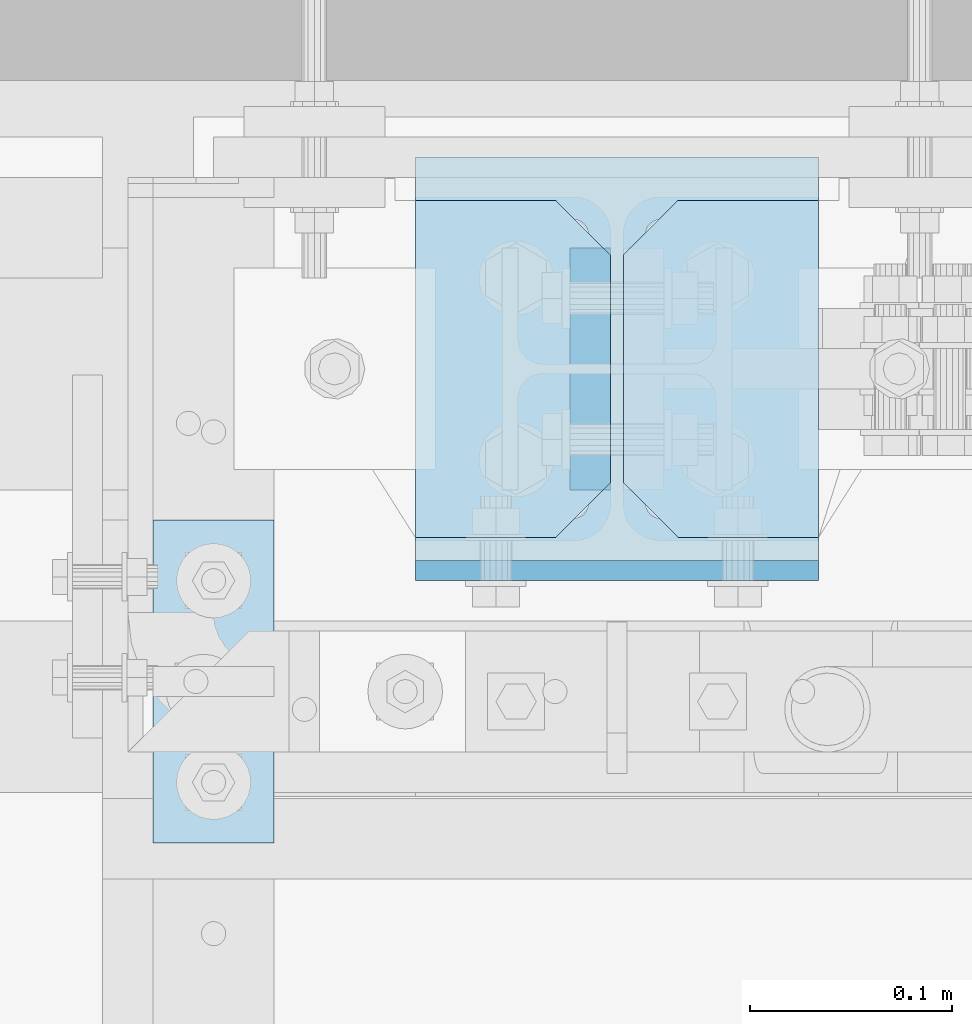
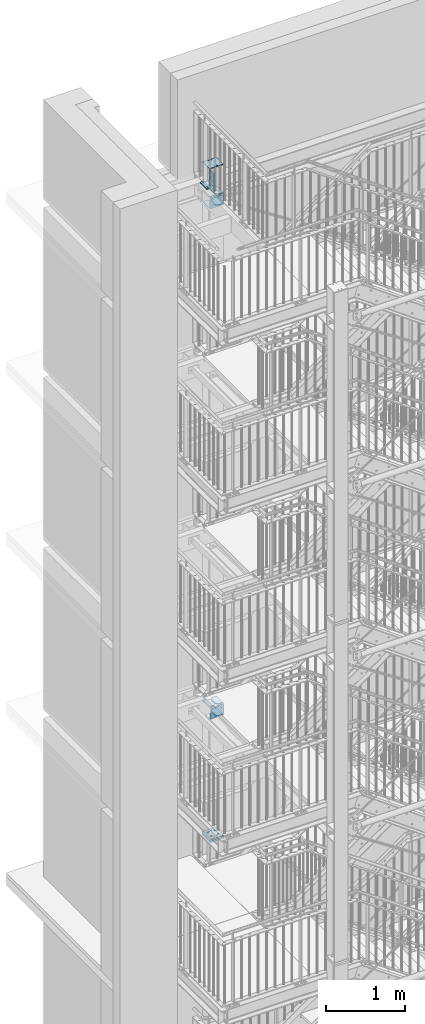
# One storey, part 191 of 831: 14 plates, 62 openings.
"""IFC2X3 building model written with IfcOpenShell, lengths in millimetres."""

from ifc_helpers import new_model, entity, si_unit, converted_unit, point, frame, frame_2d, origin, origin_with_axes, origin_2d_with_axis, place, context, project, spatial, polyline, circle_curve, line_curve, trimmed, segment, composite_curve, circle, outline, extrude, material, layer, layer_set, element, save


model = new_model("IFC2X3")

# Units and contexts
model_context = context("Model", 3, precision=1e-09, world=origin_with_axes())
ifc_project = project(units=[si_unit("LENGTHUNIT", "METRE", prefix="MILLI"), si_unit("AREAUNIT", "SQUARE_METRE"), si_unit("VOLUMEUNIT", "CUBIC_METRE"), converted_unit("PLANEANGLEUNIT", "DEGREE", entity("IfcPlaneAngleMeasure", 0.01745329), si_unit("PLANEANGLEUNIT", "RADIAN"), dimensions=[0, 0, 0, 0, 0, 0, 0])], contexts=[model_context])

# Site, building, storey
site_placement = place(None, origin_with_axes())
site = spatial("IfcSite", under=ifc_project, at=site_placement, Name="Site", CompositionType="ELEMENT")
building_placement = place(site_placement, origin_with_axes())
building = spatial("IfcBuilding", under=site, at=building_placement, Name="Struktur 1", CompositionType="ELEMENT")
storey_placement = place(building_placement, origin_with_axes())
storey = spatial("IfcBuildingStorey", under=building, at=storey_placement, Name="Default Storey", CompositionType="ELEMENT", Elevation=0.0)

# Plate, openings
ifc_material = material(Name="S235JR")
ifc_layer_1 = layer(ifc_material, 25.0)
ifc_layer_set_1 = layer_set([ifc_layer_1], Name="S235JR")
plate_1_placement = place(None, frame((4856.713402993, 7516.736971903, 7650.0), z_axis=(0.0, 0.0, -1.0), x_axis=(0.0, 1.0, 0.0)))
plate_1 = element("IfcPlate", 1, at=plate_1_placement, inside=storey, material=ifc_layer_set_1, Name="Endplate#1", ObjectType="Endplate#1", context=model_context, shape_type="SweptSolid", body=[
    extrude(outline(polyline([(-105.0, -100.0), (105.0, -100.0), (105.0, 100.0), (-105.0, 100.0), (-105.0, -100.0)])), origin_with_axes(), (0.0, 0.0, 1.0), 25.0),
])
opening_1_placement = place(plate_1_placement, frame((67.0, 21.25, -0.5), z_axis=(0.0, 0.0, 1.0), x_axis=(1.0, 0.0, 0.0)))
element("IfcOpeningElement", 2, at=opening_1_placement, cuts=plate_1, ObjectType="Opening", context=model_context, shape_type="SweptSolid", body=[
    extrude(circle(Radius=7.001, at=origin_2d_with_axis()), origin(), (0.0, 0.0, 1.0), 26.0),
])
opening_2_placement = place(plate_1_placement, frame((-67.0, 21.25, -0.5), z_axis=(0.0, 0.0, 1.0), x_axis=(1.0, 0.0, 0.0)))
element("IfcOpeningElement", 3, at=opening_2_placement, cuts=plate_1, ObjectType="Opening", context=model_context, shape_type="SweptSolid", body=[
    extrude(circle(Radius=7.001, at=origin_2d_with_axis()), origin(), (0.0, 0.0, 1.0), 26.0),
])
opening_3_placement = place(plate_1_placement, frame((-67.0, -21.25, -0.5), z_axis=(0.0, 0.0, 1.0), x_axis=(1.0, 0.0, 0.0)))
element("IfcOpeningElement", 4, at=opening_3_placement, cuts=plate_1, ObjectType="Opening", context=model_context, shape_type="SweptSolid", body=[
    extrude(circle(Radius=7.001, at=origin_2d_with_axis()), origin(), (0.0, 0.0, 1.0), 26.0),
])
opening_4_placement = place(plate_1_placement, frame((67.0, -21.25, -0.5), z_axis=(0.0, 0.0, 1.0), x_axis=(1.0, 0.0, 0.0)))
element("IfcOpeningElement", 5, at=opening_4_placement, cuts=plate_1, ObjectType="Opening", context=model_context, shape_type="SweptSolid", body=[
    extrude(circle(Radius=7.001, at=origin_2d_with_axis()), origin(), (0.0, 0.0, 1.0), 26.0),
])
opening_5_placement = place(plate_1_placement, frame((45.0, -38.999, 25.5), z_axis=(0.0, 0.0, 1.0), x_axis=(1.0, 0.0, 0.0)))
element("IfcOpeningElement", 6, at=opening_5_placement, cuts=plate_1, ObjectType="Opening", context=model_context, shape_type="SweptSolid", body=[
    extrude(circle(Radius=11.001, at=frame_2d((0.0, -11.001), x_axis=(1.0, 0.0))), origin(), (0.0, 0.0, -1.0), 26.0),
])
opening_6_placement = place(plate_1_placement, frame((-45.0, -38.999, 25.5), z_axis=(0.0, 0.0, 1.0), x_axis=(1.0, 0.0, 0.0)))
element("IfcOpeningElement", 7, at=opening_6_placement, cuts=plate_1, ObjectType="Opening", context=model_context, shape_type="SweptSolid", body=[
    extrude(circle(Radius=11.001, at=frame_2d((0.0, -11.001), x_axis=(1.0, 0.0))), origin(), (0.0, 0.0, -1.0), 26.0),
])
opening_7_placement = place(plate_1_placement, frame((45.0, 61.001, 25.5), z_axis=(0.0, 0.0, 1.0), x_axis=(1.0, 0.0, 0.0)))
element("IfcOpeningElement", 8, at=opening_7_placement, cuts=plate_1, ObjectType="Opening", context=model_context, shape_type="SweptSolid", body=[
    extrude(circle(Radius=11.001, at=frame_2d((0.0, -11.001), x_axis=(1.0, 0.0))), origin(), (0.0, 0.0, -1.0), 26.0),
])
opening_8_placement = place(plate_1_placement, frame((-45.0, 61.001, 25.5), z_axis=(0.0, 0.0, 1.0), x_axis=(1.0, 0.0, 0.0)))
element("IfcOpeningElement", 9, at=opening_8_placement, cuts=plate_1, ObjectType="Opening", context=model_context, shape_type="SweptSolid", body=[
    extrude(circle(Radius=11.001, at=frame_2d((0.0, -11.001), x_axis=(1.0, 0.0))), origin(), (0.0, 0.0, -1.0), 26.0),
])

plate_2_placement = place(None, frame((4856.713402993, 7516.736971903, 7675.0), z_axis=(0.0, 0.0, -1.0), x_axis=(0.0, 1.0, 0.0)))
plate_2 = element("IfcPlate", 10, at=plate_2_placement, inside=storey, material=ifc_layer_set_1, Name="Endplate#2", ObjectType="Endplate#2", context=model_context, shape_type="SweptSolid", body=[
    extrude(outline(polyline([(-105.0, -100.0), (105.0, -100.0), (105.0, 100.0), (-105.0, 100.0), (-105.0, -100.0)])), origin_with_axes(), (0.0, 0.0, 1.0), 25.0),
])
opening_9_placement = place(plate_2_placement, frame((67.0, 21.25, 25.5), z_axis=(0.0, 0.0, -1.0), x_axis=(-1.0, 0.0, 0.0)))
element("IfcOpeningElement", 11, at=opening_9_placement, cuts=plate_2, ObjectType="Opening", context=model_context, shape_type="SweptSolid", body=[
    extrude(circle(Radius=7.001, at=origin_2d_with_axis()), origin(), (0.0, 0.0, 1.0), 26.0),
])
opening_10_placement = place(plate_2_placement, frame((-67.0, 21.25, 25.5), z_axis=(0.0, 0.0, -1.0), x_axis=(-1.0, 0.0, 0.0)))
element("IfcOpeningElement", 12, at=opening_10_placement, cuts=plate_2, ObjectType="Opening", context=model_context, shape_type="SweptSolid", body=[
    extrude(circle(Radius=7.001, at=origin_2d_with_axis()), origin(), (0.0, 0.0, 1.0), 26.0),
])
opening_11_placement = place(plate_2_placement, frame((-67.0, -21.25, 25.5), z_axis=(0.0, 0.0, -1.0), x_axis=(-1.0, 0.0, 0.0)))
element("IfcOpeningElement", 13, at=opening_11_placement, cuts=plate_2, ObjectType="Opening", context=model_context, shape_type="SweptSolid", body=[
    extrude(circle(Radius=7.001, at=origin_2d_with_axis()), origin(), (0.0, 0.0, 1.0), 26.0),
])
opening_12_placement = place(plate_2_placement, frame((67.0, -21.25, 25.5), z_axis=(0.0, 0.0, -1.0), x_axis=(-1.0, 0.0, 0.0)))
element("IfcOpeningElement", 14, at=opening_12_placement, cuts=plate_2, ObjectType="Opening", context=model_context, shape_type="SweptSolid", body=[
    extrude(circle(Radius=7.001, at=origin_2d_with_axis()), origin(), (0.0, 0.0, 1.0), 26.0),
])
opening_13_placement = place(plate_2_placement, frame((45.0, 61.001, 25.5), z_axis=(0.0, 0.0, 1.0), x_axis=(1.0, 0.0, 0.0)))
element("IfcOpeningElement", 15, at=opening_13_placement, cuts=plate_2, ObjectType="Opening", context=model_context, shape_type="SweptSolid", body=[
    extrude(circle(Radius=11.001, at=frame_2d((0.0, -11.001), x_axis=(1.0, 0.0))), origin(), (0.0, 0.0, -1.0), 26.0),
])
opening_14_placement = place(plate_2_placement, frame((-45.0, 61.001, 25.5), z_axis=(0.0, 0.0, 1.0), x_axis=(1.0, 0.0, 0.0)))
element("IfcOpeningElement", 16, at=opening_14_placement, cuts=plate_2, ObjectType="Opening", context=model_context, shape_type="SweptSolid", body=[
    extrude(circle(Radius=11.001, at=frame_2d((0.0, -11.001), x_axis=(1.0, 0.0))), origin(), (0.0, 0.0, -1.0), 26.0),
])
opening_15_placement = place(plate_2_placement, frame((45.0, -38.999, 25.5), z_axis=(0.0, 0.0, 1.0), x_axis=(1.0, 0.0, 0.0)))
element("IfcOpeningElement", 17, at=opening_15_placement, cuts=plate_2, ObjectType="Opening", context=model_context, shape_type="SweptSolid", body=[
    extrude(circle(Radius=11.001, at=frame_2d((0.0, -11.001), x_axis=(1.0, 0.0))), origin(), (0.0, 0.0, -1.0), 26.0),
])
opening_16_placement = place(plate_2_placement, frame((-45.0, -38.999, 25.5), z_axis=(0.0, 0.0, 1.0), x_axis=(1.0, 0.0, 0.0)))
element("IfcOpeningElement", 18, at=opening_16_placement, cuts=plate_2, ObjectType="Opening", context=model_context, shape_type="SweptSolid", body=[
    extrude(circle(Radius=11.001, at=frame_2d((0.0, -11.001), x_axis=(1.0, 0.0))), origin(), (0.0, 0.0, -1.0), 26.0),
])

ifc_layer_2 = layer(ifc_material, 10.0)
ifc_layer_set_2 = layer_set([ifc_layer_2], Name="S235JR")
plate_3_placement = place(None, frame((4856.713402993, 7411.736971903, 17498.999999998), z_axis=(0.0, 1.0, 0.0), x_axis=(0.0, 0.0, -1.0)))
plate_3 = element("IfcPlate", 19, at=plate_3_placement, inside=storey, material=ifc_layer_set_2, Name="Endplate", ObjectType="Endplate", context=model_context, shape_type="SweptSolid", body=[
    extrude(outline(polyline([(-90.0, -100.0), (90.0, -100.0), (90.0, 100.0), (-90.0, 100.0), (-90.0, -100.0)])), origin_with_axes(), (0.0, 0.0, 1.0), 10.0),
])
opening_17_placement = place(plate_3_placement, frame((-67.0, 21.25, 10.5), z_axis=(0.0, 0.0, -1.0), x_axis=(-1.0, 0.0, 0.0)))
element("IfcOpeningElement", 20, at=opening_17_placement, cuts=plate_3, ObjectType="Opening", context=model_context, shape_type="SweptSolid", body=[
    extrude(circle(Radius=6.001, at=origin_2d_with_axis()), origin(), (0.0, 0.0, 1.0), 11.0),
])
opening_18_placement = place(plate_3_placement, frame((67.0, 21.25, 10.5), z_axis=(0.0, 0.0, -1.0), x_axis=(-1.0, 0.0, 0.0)))
element("IfcOpeningElement", 21, at=opening_18_placement, cuts=plate_3, ObjectType="Opening", context=model_context, shape_type="SweptSolid", body=[
    extrude(circle(Radius=6.001, at=origin_2d_with_axis()), origin(), (0.0, 0.0, 1.0), 11.0),
])
opening_19_placement = place(plate_3_placement, frame((67.0, -21.25, 10.5), z_axis=(0.0, 0.0, -1.0), x_axis=(-1.0, 0.0, 0.0)))
element("IfcOpeningElement", 22, at=opening_19_placement, cuts=plate_3, ObjectType="Opening", context=model_context, shape_type="SweptSolid", body=[
    extrude(circle(Radius=6.001, at=origin_2d_with_axis()), origin(), (0.0, 0.0, 1.0), 11.0),
])
opening_20_placement = place(plate_3_placement, frame((-67.0, -21.25, 10.5), z_axis=(0.0, 0.0, -1.0), x_axis=(-1.0, 0.0, 0.0)))
element("IfcOpeningElement", 23, at=opening_20_placement, cuts=plate_3, ObjectType="Opening", context=model_context, shape_type="SweptSolid", body=[
    extrude(circle(Radius=6.001, at=origin_2d_with_axis()), origin(), (0.0, 0.0, 1.0), 11.0),
])
opening_21_placement = place(plate_3_placement, frame((-45.0, -60.0, 10.5), z_axis=(0.0, 0.0, -1.0), x_axis=(0.0, -1.0, 0.0)))
element("IfcOpeningElement", 24, at=opening_21_placement, cuts=plate_3, ObjectType="Opening", context=model_context, shape_type="SweptSolid", body=[
    extrude(circle(Radius=9.001, at=origin_2d_with_axis()), origin(), (0.0, 0.0, 1.0), 11.0),
])
opening_22_placement = place(plate_3_placement, frame((45.0, 60.0, 10.5), z_axis=(0.0, 0.0, -1.0), x_axis=(0.0, 1.0, 0.0)))
element("IfcOpeningElement", 25, at=opening_22_placement, cuts=plate_3, ObjectType="Opening", context=model_context, shape_type="SweptSolid", body=[
    extrude(circle(Radius=9.001, at=origin_2d_with_axis()), origin(), (0.0, 0.0, 1.0), 11.0),
])
opening_23_placement = place(plate_3_placement, frame((45.0, -60.0, 10.5), z_axis=(0.0, 0.0, -1.0), x_axis=(0.0, -1.0, 0.0)))
element("IfcOpeningElement", 26, at=opening_23_placement, cuts=plate_3, ObjectType="Opening", context=model_context, shape_type="SweptSolid", body=[
    extrude(circle(Radius=9.001, at=origin_2d_with_axis()), origin(), (0.0, 0.0, 1.0), 11.0),
])
opening_24_placement = place(plate_3_placement, frame((-45.0, 60.0, 10.5), z_axis=(0.0, 0.0, -1.0), x_axis=(0.0, 1.0, 0.0)))
element("IfcOpeningElement", 27, at=opening_24_placement, cuts=plate_3, ObjectType="Opening", context=model_context, shape_type="SweptSolid", body=[
    extrude(circle(Radius=9.001, at=origin_2d_with_axis()), origin(), (0.0, 0.0, 1.0), 11.0),
])

plate_4_placement = place(None, frame((4859.963402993, 7433.236971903, 17573.999999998), z_axis=(0.0, 0.0, 1.0), x_axis=(1.0, 0.0, 0.0)))
plate_4 = element("IfcPlate", 28, at=plate_4_placement, inside=storey, material=ifc_layer_set_2, Name="Stiffener#1", ObjectType="Stiffener#1", context=model_context, shape_type="SweptSolid", body=[
    extrude(outline(polyline([(0.0, 0.0), (96.75, 0.0), (96.75, 167.0), (0.0, 167.0), (0.0, 0.0)])), origin_with_axes(), (0.0, 0.0, 1.0), 10.0),
])
opening_25_placement = place(plate_4_placement, frame((0.0, 0.0, -0.01), z_axis=(0.0, 0.0, 1.0), x_axis=(1.0, 0.0, 0.0)))
element("IfcOpeningElement", 29, at=opening_25_placement, cuts=plate_4, ObjectType="Opening", context=model_context, shape_type="SweptSolid", body=[
    extrude(outline(polyline([(0.0, 167.0), (0.0, 140.0), (27.0, 167.0), (0.0, 167.0)])), origin(), (0.0, 0.0, 1.0), 10.02),
])
opening_26_placement = place(plate_4_placement, frame((0.0, 0.0, -0.01), z_axis=(0.0, 0.0, 1.0), x_axis=(1.0, 0.0, 0.0)))
element("IfcOpeningElement", 30, at=opening_26_placement, cuts=plate_4, ObjectType="Opening", context=model_context, shape_type="SweptSolid", body=[
    extrude(outline(polyline([(0.0, 0.0), (27.0, 0.0), (0.0, 27.0), (0.0, 0.0)])), origin(), (0.0, 0.0, 1.0), 10.02),
])

plate_5_placement = place(None, frame((4756.713402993, 7433.236971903, 17573.999999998), z_axis=(0.0, 0.0, 1.0), x_axis=(1.0, 0.0, 0.0)))
plate_5 = element("IfcPlate", 31, at=plate_5_placement, inside=storey, material=ifc_layer_set_2, Name="Stiffener#2", ObjectType="Stiffener#2", context=model_context, shape_type="SweptSolid", body=[
    extrude(outline(polyline([(0.0, 0.0), (96.75, 0.0), (96.75, 167.0), (0.0, 167.0), (0.0, 0.0)])), origin_with_axes(), (0.0, 0.0, 1.0), 10.0),
])
opening_27_placement = place(plate_5_placement, frame((0.0, 0.0, -0.01), z_axis=(0.0, 0.0, 1.0), x_axis=(1.0, 0.0, 0.0)))
element("IfcOpeningElement", 32, at=opening_27_placement, cuts=plate_5, ObjectType="Opening", context=model_context, shape_type="SweptSolid", body=[
    extrude(outline(polyline([(96.75, 167.0), (69.75, 167.0), (96.75, 140.0), (96.75, 167.0)])), origin(), (0.0, 0.0, 1.0), 10.02),
])
opening_28_placement = place(plate_5_placement, frame((0.0, 0.0, -0.01), z_axis=(0.0, 0.0, 1.0), x_axis=(1.0, 0.0, 0.0)))
element("IfcOpeningElement", 33, at=opening_28_placement, cuts=plate_5, ObjectType="Opening", context=model_context, shape_type="SweptSolid", body=[
    extrude(outline(polyline([(96.75, 0.0), (96.75, 27.0), (69.75, 0.0), (96.75, 0.0)])), origin(), (0.0, 0.0, 1.0), 10.02),
])

plate_6_placement = place(None, frame((4956.713402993, 7433.236971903, 17413.999999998), z_axis=(0.0, 0.0, -1.0), x_axis=(-1.0, 0.0, 0.0)))
plate_6 = element("IfcPlate", 34, at=plate_6_placement, inside=storey, material=ifc_layer_set_2, Name="Stiffener#3", ObjectType="Stiffener#3", context=model_context, shape_type="SweptSolid", body=[
    extrude(outline(polyline([(0.0, 0.0), (96.75, 0.0), (96.75, 167.0), (0.0, 167.0), (0.0, 0.0)])), origin_with_axes(), (0.0, 0.0, 1.0), 10.0),
])
opening_29_placement = place(plate_6_placement, frame((0.0, 0.0, -0.01), z_axis=(0.0, 0.0, 1.0), x_axis=(1.0, 0.0, 0.0)))
element("IfcOpeningElement", 35, at=opening_29_placement, cuts=plate_6, ObjectType="Opening", context=model_context, shape_type="SweptSolid", body=[
    extrude(outline(polyline([(96.75, 167.0), (69.75, 167.0), (96.75, 140.0), (96.75, 167.0)])), origin(), (0.0, 0.0, 1.0), 10.02),
])
opening_30_placement = place(plate_6_placement, frame((0.0, 0.0, -0.01), z_axis=(0.0, 0.0, 1.0), x_axis=(1.0, 0.0, 0.0)))
element("IfcOpeningElement", 36, at=opening_30_placement, cuts=plate_6, ObjectType="Opening", context=model_context, shape_type="SweptSolid", body=[
    extrude(outline(polyline([(96.75, 0.0), (96.75, 27.0), (69.75, 0.0), (96.75, 0.0)])), origin(), (0.0, 0.0, 1.0), 10.02),
])

plate_7_placement = place(None, frame((4853.463402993, 7433.236971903, 17413.999999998), z_axis=(0.0, 0.0, -1.0), x_axis=(-1.0, 0.0, 0.0)))
plate_7 = element("IfcPlate", 37, at=plate_7_placement, inside=storey, material=ifc_layer_set_2, Name="Stiffener#4", ObjectType="Stiffener#4", context=model_context, shape_type="SweptSolid", body=[
    extrude(outline(polyline([(0.0, 0.0), (96.75, 0.0), (96.75, 167.0), (0.0, 167.0), (0.0, 0.0)])), origin_with_axes(), (0.0, 0.0, 1.0), 10.0),
])
opening_31_placement = place(plate_7_placement, frame((0.0, 0.0, -0.01), z_axis=(0.0, 0.0, 1.0), x_axis=(1.0, 0.0, 0.0)))
element("IfcOpeningElement", 38, at=opening_31_placement, cuts=plate_7, ObjectType="Opening", context=model_context, shape_type="SweptSolid", body=[
    extrude(outline(polyline([(0.0, 167.0), (0.0, 140.0), (27.0, 167.0), (0.0, 167.0)])), origin(), (0.0, 0.0, 1.0), 10.02),
])
opening_32_placement = place(plate_7_placement, frame((0.0, 0.0, -0.01), z_axis=(0.0, 0.0, 1.0), x_axis=(1.0, 0.0, 0.0)))
element("IfcOpeningElement", 39, at=opening_32_placement, cuts=plate_7, ObjectType="Opening", context=model_context, shape_type="SweptSolid", body=[
    extrude(outline(polyline([(0.0, 0.0), (27.0, 0.0), (0.0, 27.0), (0.0, 0.0)])), origin(), (0.0, 0.0, 1.0), 10.02),
])

ifc_layer_3 = layer(ifc_material, 20.0)
ifc_layer_set_3 = layer_set([ifc_layer_3], Name="S235JR")
plate_8_placement = place(None, frame((4833.463402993, 7516.736971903, 17753.999999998), z_axis=(1.0, 0.0, 0.0), x_axis=(0.0, 0.0, -1.0)))
plate_8 = element("IfcPlate", 40, at=plate_8_placement, inside=storey, material=ifc_layer_set_3, Name="Endplate", ObjectType="Endplate", context=model_context, shape_type="SweptSolid", body=[
    extrude(outline(polyline([(-150.0, -60.0), (150.0, -60.0), (150.0, 60.0), (-150.0, 60.0), (-150.0, -60.0)])), origin_with_axes(), (0.0, 0.0, 1.0), 20.0),
])
opening_33_placement = place(plate_8_placement, frame((-55.2, 18.1, 20.5), z_axis=(0.0, 0.0, -1.0), x_axis=(-1.0, 0.0, 0.0)))
element("IfcOpeningElement", 41, at=opening_33_placement, cuts=plate_8, ObjectType="Opening", context=model_context, shape_type="SweptSolid", body=[
    extrude(circle(Radius=6.001, at=origin_2d_with_axis()), origin(), (0.0, 0.0, 1.0), 21.0),
])
opening_34_placement = place(plate_8_placement, frame((135.2, 18.1, 20.5), z_axis=(0.0, 0.0, -1.0), x_axis=(-1.0, 0.0, 0.0)))
element("IfcOpeningElement", 42, at=opening_34_placement, cuts=plate_8, ObjectType="Opening", context=model_context, shape_type="SweptSolid", body=[
    extrude(circle(Radius=6.001, at=origin_2d_with_axis()), origin(), (0.0, 0.0, 1.0), 21.0),
])
opening_35_placement = place(plate_8_placement, frame((135.2, -18.1, 20.5), z_axis=(0.0, 0.0, -1.0), x_axis=(-1.0, 0.0, 0.0)))
element("IfcOpeningElement", 43, at=opening_35_placement, cuts=plate_8, ObjectType="Opening", context=model_context, shape_type="SweptSolid", body=[
    extrude(circle(Radius=6.001, at=origin_2d_with_axis()), origin(), (0.0, 0.0, 1.0), 21.0),
])
opening_36_placement = place(plate_8_placement, frame((-55.2, -18.1, 20.5), z_axis=(0.0, 0.0, -1.0), x_axis=(-1.0, 0.0, 0.0)))
element("IfcOpeningElement", 44, at=opening_36_placement, cuts=plate_8, ObjectType="Opening", context=model_context, shape_type="SweptSolid", body=[
    extrude(circle(Radius=6.001, at=origin_2d_with_axis()), origin(), (0.0, 0.0, 1.0), 21.0),
])
opening_37_placement = place(plate_8_placement, frame((100.0, -35.0, 20.5), z_axis=(0.0, 0.0, -1.0), x_axis=(0.0, -1.0, 0.0)))
element("IfcOpeningElement", 45, at=opening_37_placement, cuts=plate_8, ObjectType="Opening", context=model_context, shape_type="SweptSolid", body=[
    extrude(circle(Radius=9.001, at=origin_2d_with_axis()), origin(), (0.0, 0.0, 1.0), 21.0),
])
opening_38_placement = place(plate_8_placement, frame((-120.0, -35.0, 20.5), z_axis=(0.0, 0.0, -1.0), x_axis=(0.0, -1.0, 0.0)))
element("IfcOpeningElement", 46, at=opening_38_placement, cuts=plate_8, ObjectType="Opening", context=model_context, shape_type="SweptSolid", body=[
    extrude(circle(Radius=9.001, at=origin_2d_with_axis()), origin(), (0.0, 0.0, 1.0), 21.0),
])
opening_39_placement = place(plate_8_placement, frame((-20.0, 35.0, 20.5), z_axis=(0.0, 0.0, -1.0), x_axis=(0.0, 1.0, 0.0)))
element("IfcOpeningElement", 47, at=opening_39_placement, cuts=plate_8, ObjectType="Opening", context=model_context, shape_type="SweptSolid", body=[
    extrude(circle(Radius=9.001, at=origin_2d_with_axis()), origin(), (0.0, 0.0, 1.0), 21.0),
])
opening_40_placement = place(plate_8_placement, frame((100.0, 35.0, 20.5), z_axis=(0.0, 0.0, -1.0), x_axis=(0.0, 1.0, 0.0)))
element("IfcOpeningElement", 48, at=opening_40_placement, cuts=plate_8, ObjectType="Opening", context=model_context, shape_type="SweptSolid", body=[
    extrude(circle(Radius=9.001, at=origin_2d_with_axis()), origin(), (0.0, 0.0, 1.0), 21.0),
])
opening_41_placement = place(plate_8_placement, frame((-120.0, 35.0, 20.5), z_axis=(0.0, 0.0, -1.0), x_axis=(0.0, 1.0, 0.0)))
element("IfcOpeningElement", 49, at=opening_41_placement, cuts=plate_8, ObjectType="Opening", context=model_context, shape_type="SweptSolid", body=[
    extrude(circle(Radius=9.001, at=origin_2d_with_axis()), origin(), (0.0, 0.0, 1.0), 21.0),
])
opening_42_placement = place(plate_8_placement, frame((-20.0, -35.0, 20.5), z_axis=(0.0, 0.0, -1.0), x_axis=(0.0, -1.0, 0.0)))
element("IfcOpeningElement", 50, at=opening_42_placement, cuts=plate_8, ObjectType="Opening", context=model_context, shape_type="SweptSolid", body=[
    extrude(circle(Radius=9.001, at=origin_2d_with_axis()), origin(), (0.0, 0.0, 1.0), 21.0),
])

plate_9_placement = place(None, frame((4856.713402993, 7516.736971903, 18013.999999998), z_axis=(0.0, 0.0, 1.0), x_axis=(1.0, 0.0, 0.0)))
plate_9 = element("IfcPlate", 51, at=plate_9_placement, inside=storey, material=ifc_layer_set_2, Name="-", ObjectType="-", context=model_context, shape_type="SweptSolid", body=[
    extrude(outline(polyline([(-100.0, -90.0), (100.0, -90.0), (100.0, 90.0), (-100.0, 90.0), (-100.0, -90.0)])), origin_with_axes(), (0.0, 0.0, 1.0), 10.0),
])
opening_43_placement = place(plate_9_placement, frame((21.25, 67.0, 10.5), z_axis=(0.0, 0.0, -1.0), x_axis=(0.0, 1.0, 0.0)))
element("IfcOpeningElement", 52, at=opening_43_placement, cuts=plate_9, ObjectType="Opening", context=model_context, shape_type="SweptSolid", body=[
    extrude(circle(Radius=6.001, at=origin_2d_with_axis()), origin(), (0.0, 0.0, 1.0), 11.0),
])
opening_44_placement = place(plate_9_placement, frame((21.25, -67.0, 10.5), z_axis=(0.0, 0.0, -1.0), x_axis=(0.0, 1.0, 0.0)))
element("IfcOpeningElement", 53, at=opening_44_placement, cuts=plate_9, ObjectType="Opening", context=model_context, shape_type="SweptSolid", body=[
    extrude(circle(Radius=6.001, at=origin_2d_with_axis()), origin(), (0.0, 0.0, 1.0), 11.0),
])
opening_45_placement = place(plate_9_placement, frame((-21.25, -67.0, 10.5), z_axis=(0.0, 0.0, -1.0), x_axis=(0.0, 1.0, 0.0)))
element("IfcOpeningElement", 54, at=opening_45_placement, cuts=plate_9, ObjectType="Opening", context=model_context, shape_type="SweptSolid", body=[
    extrude(circle(Radius=6.001, at=origin_2d_with_axis()), origin(), (0.0, 0.0, 1.0), 11.0),
])
opening_46_placement = place(plate_9_placement, frame((-21.25, 67.0, 10.5), z_axis=(0.0, 0.0, -1.0), x_axis=(0.0, 1.0, 0.0)))
element("IfcOpeningElement", 55, at=opening_46_placement, cuts=plate_9, ObjectType="Opening", context=model_context, shape_type="SweptSolid", body=[
    extrude(circle(Radius=6.001, at=origin_2d_with_axis()), origin(), (0.0, 0.0, 1.0), 11.0),
])

plate_10_placement = place(None, frame((4626.713402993, 7441.736971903, 17834.0), z_axis=(0.0, 0.0, 1.0), x_axis=(0.0, -1.0, 0.0)))
plate_10 = element("IfcPlate", 56, at=plate_10_placement, inside=storey, material=ifc_layer_set_3, Name="Plate#504", ObjectType="Plate#504", context=model_context, shape_type="SweptSolid", body=[
    extrude(outline(polyline([(0.0, 0.0), (160.0, 0.0), (160.0, 60.0), (0.0, 60.0), (0.0, 0.0)])), origin_with_axes(), (0.0, 0.0, 1.0), 20.0),
])
opening_47_placement = place(plate_10_placement, frame((38.0, 37.001, 20.5), z_axis=(0.0, 0.0, 1.0), x_axis=(-1.0, 0.0, 0.0)))
element("IfcOpeningElement", 57, at=opening_47_placement, cuts=plate_10, ObjectType="Opening", context=model_context, shape_type="SweptSolid", body=[
    extrude(outline(composite_curve([segment(trimmed(line_curve((0.0, 0.0), (1.0, 0.0), 16.0), [point((0.0, 0.0))], [point((16.0, 0.0))], True, "CARTESIAN"), True, "CONTINUOUS"), segment(trimmed(circle_curve(frame_2d((16.0, 7.001), x_axis=(1.0, 0.0)), 7.001), [point((16.0, 0.0))], [point((16.0, 14.002))], True, "CARTESIAN"), True, "CONTINUOUS"), segment(trimmed(line_curve((16.0, 14.002), (-1.0, 0.0), 16.0), [point((16.0, 14.002))], [point((0.0, 14.002))], True, "CARTESIAN"), True, "CONTINUOUS"), segment(trimmed(circle_curve(frame_2d((0.0, 7.001), x_axis=(1.0, 0.0)), 7.001), [point((0.0, 14.002))], [point((0.0, 0.0))], True, "CARTESIAN"), True, "CONTINUOUS")], self_intersect=False)), origin(), (0.0, 0.0, -1.0), 21.0),
])
opening_48_placement = place(plate_10_placement, frame((138.0, 37.001, 20.5), z_axis=(0.0, 0.0, 1.0), x_axis=(-1.0, 0.0, 0.0)))
element("IfcOpeningElement", 58, at=opening_48_placement, cuts=plate_10, ObjectType="Opening", context=model_context, shape_type="SweptSolid", body=[
    extrude(outline(composite_curve([segment(trimmed(line_curve((0.0, 0.0), (1.0, 0.0), 16.0), [point((0.0, 0.0))], [point((16.0, 0.0))], True, "CARTESIAN"), True, "CONTINUOUS"), segment(trimmed(circle_curve(frame_2d((16.0, 7.001), x_axis=(1.0, 0.0)), 7.001), [point((16.0, 0.0))], [point((16.0, 14.002))], True, "CARTESIAN"), True, "CONTINUOUS"), segment(trimmed(line_curve((16.0, 14.002), (-1.0, 0.0), 16.0), [point((16.0, 14.002))], [point((0.0, 14.002))], True, "CARTESIAN"), True, "CONTINUOUS"), segment(trimmed(circle_curve(frame_2d((0.0, 7.001), x_axis=(1.0, 0.0)), 7.001), [point((0.0, 14.002))], [point((0.0, 0.0))], True, "CARTESIAN"), True, "CONTINUOUS")], self_intersect=False)), origin(), (0.0, 0.0, -1.0), 21.0),
])

plate_11_placement = place(None, frame((4856.713402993, 7411.736971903, 9617.0), z_axis=(0.0, 1.0, 0.0), x_axis=(0.0, 0.0, -1.0)))
plate_11 = element("IfcPlate", 59, at=plate_11_placement, inside=storey, material=ifc_layer_set_2, Name="Endplate", ObjectType="Endplate", context=model_context, shape_type="SweptSolid", body=[
    extrude(outline(polyline([(-90.0, -100.0), (90.0, -100.0), (90.0, 100.0), (-90.0, 100.0), (-90.0, -100.0)])), origin_with_axes(), (0.0, 0.0, 1.0), 10.0),
])
opening_49_placement = place(plate_11_placement, frame((-67.0, 21.25, 10.5), z_axis=(0.0, 0.0, -1.0), x_axis=(-1.0, 0.0, 0.0)))
element("IfcOpeningElement", 60, at=opening_49_placement, cuts=plate_11, ObjectType="Opening", context=model_context, shape_type="SweptSolid", body=[
    extrude(circle(Radius=6.001, at=origin_2d_with_axis()), origin(), (0.0, 0.0, 1.0), 11.0),
])
opening_50_placement = place(plate_11_placement, frame((67.0, 21.25, 10.5), z_axis=(0.0, 0.0, -1.0), x_axis=(-1.0, 0.0, 0.0)))
element("IfcOpeningElement", 61, at=opening_50_placement, cuts=plate_11, ObjectType="Opening", context=model_context, shape_type="SweptSolid", body=[
    extrude(circle(Radius=6.001, at=origin_2d_with_axis()), origin(), (0.0, 0.0, 1.0), 11.0),
])
opening_51_placement = place(plate_11_placement, frame((67.0, -21.25, 10.5), z_axis=(0.0, 0.0, -1.0), x_axis=(-1.0, 0.0, 0.0)))
element("IfcOpeningElement", 62, at=opening_51_placement, cuts=plate_11, ObjectType="Opening", context=model_context, shape_type="SweptSolid", body=[
    extrude(circle(Radius=6.001, at=origin_2d_with_axis()), origin(), (0.0, 0.0, 1.0), 11.0),
])
opening_52_placement = place(plate_11_placement, frame((-67.0, -21.25, 10.5), z_axis=(0.0, 0.0, -1.0), x_axis=(-1.0, 0.0, 0.0)))
element("IfcOpeningElement", 63, at=opening_52_placement, cuts=plate_11, ObjectType="Opening", context=model_context, shape_type="SweptSolid", body=[
    extrude(circle(Radius=6.001, at=origin_2d_with_axis()), origin(), (0.0, 0.0, 1.0), 11.0),
])
opening_53_placement = place(plate_11_placement, frame((-45.0, 60.0, 10.5), z_axis=(0.0, 0.0, -1.0), x_axis=(0.0, 1.0, 0.0)))
element("IfcOpeningElement", 64, at=opening_53_placement, cuts=plate_11, ObjectType="Opening", context=model_context, shape_type="SweptSolid", body=[
    extrude(circle(Radius=9.001, at=origin_2d_with_axis()), origin(), (0.0, 0.0, 1.0), 11.0),
])
opening_54_placement = place(plate_11_placement, frame((-45.0, -60.0, 10.5), z_axis=(0.0, 0.0, -1.0), x_axis=(0.0, -1.0, 0.0)))
element("IfcOpeningElement", 65, at=opening_54_placement, cuts=plate_11, ObjectType="Opening", context=model_context, shape_type="SweptSolid", body=[
    extrude(circle(Radius=9.001, at=origin_2d_with_axis()), origin(), (0.0, 0.0, 1.0), 11.0),
])
opening_55_placement = place(plate_11_placement, frame((45.0, -60.0, 10.5), z_axis=(0.0, 0.0, -1.0), x_axis=(0.0, -1.0, 0.0)))
element("IfcOpeningElement", 66, at=opening_55_placement, cuts=plate_11, ObjectType="Opening", context=model_context, shape_type="SweptSolid", body=[
    extrude(circle(Radius=9.001, at=origin_2d_with_axis()), origin(), (0.0, 0.0, 1.0), 11.0),
])
opening_56_placement = place(plate_11_placement, frame((45.0, 60.0, 10.5), z_axis=(0.0, 0.0, -1.0), x_axis=(0.0, 1.0, 0.0)))
element("IfcOpeningElement", 67, at=opening_56_placement, cuts=plate_11, ObjectType="Opening", context=model_context, shape_type="SweptSolid", body=[
    extrude(circle(Radius=9.001, at=origin_2d_with_axis()), origin(), (0.0, 0.0, 1.0), 11.0),
])

plate_12_placement = place(None, frame((4859.963402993, 7433.236971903, 9702.0), z_axis=(0.0, 0.0, 1.0), x_axis=(1.0, 0.0, 0.0)))
plate_12 = element("IfcPlate", 68, at=plate_12_placement, inside=storey, material=ifc_layer_set_2, Name="Stiffener#1", ObjectType="Stiffener#1", context=model_context, shape_type="SweptSolid", body=[
    extrude(outline(polyline([(0.0, 0.0), (96.75, 0.0), (96.75, 167.0), (0.0, 167.0), (0.0, 0.0)])), origin_with_axes(), (0.0, 0.0, 1.0), 10.0),
])
opening_57_placement = place(plate_12_placement, frame((0.0, 0.0, -0.01), z_axis=(0.0, 0.0, 1.0), x_axis=(1.0, 0.0, 0.0)))
element("IfcOpeningElement", 69, at=opening_57_placement, cuts=plate_12, ObjectType="Opening", context=model_context, shape_type="SweptSolid", body=[
    extrude(outline(polyline([(0.0, 167.0), (0.0, 140.0), (27.0, 167.0), (0.0, 167.0)])), origin(), (0.0, 0.0, 1.0), 10.02),
])
opening_58_placement = place(plate_12_placement, frame((0.0, 0.0, -0.01), z_axis=(0.0, 0.0, 1.0), x_axis=(1.0, 0.0, 0.0)))
element("IfcOpeningElement", 70, at=opening_58_placement, cuts=plate_12, ObjectType="Opening", context=model_context, shape_type="SweptSolid", body=[
    extrude(outline(polyline([(0.0, 0.0), (27.0, 0.0), (0.0, 27.0), (0.0, 0.0)])), origin(), (0.0, 0.0, 1.0), 10.02),
])

plate_13_placement = place(None, frame((4756.713402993, 7433.236971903, 9702.0), z_axis=(0.0, 0.0, 1.0), x_axis=(1.0, 0.0, 0.0)))
plate_13 = element("IfcPlate", 71, at=plate_13_placement, inside=storey, material=ifc_layer_set_2, Name="Stiffener#2", ObjectType="Stiffener#2", context=model_context, shape_type="SweptSolid", body=[
    extrude(outline(polyline([(0.0, 0.0), (96.75, 0.0), (96.75, 167.0), (0.0, 167.0), (0.0, 0.0)])), origin_with_axes(), (0.0, 0.0, 1.0), 10.0),
])
opening_59_placement = place(plate_13_placement, frame((0.0, 0.0, -0.01), z_axis=(0.0, 0.0, 1.0), x_axis=(1.0, 0.0, 0.0)))
element("IfcOpeningElement", 72, at=opening_59_placement, cuts=plate_13, ObjectType="Opening", context=model_context, shape_type="SweptSolid", body=[
    extrude(outline(polyline([(96.75, 167.0), (69.75, 167.0), (96.75, 140.0), (96.75, 167.0)])), origin(), (0.0, 0.0, 1.0), 10.02),
])
opening_60_placement = place(plate_13_placement, frame((0.0, 0.0, -0.01), z_axis=(0.0, 0.0, 1.0), x_axis=(1.0, 0.0, 0.0)))
element("IfcOpeningElement", 73, at=opening_60_placement, cuts=plate_13, ObjectType="Opening", context=model_context, shape_type="SweptSolid", body=[
    extrude(outline(polyline([(96.75, 0.0), (96.75, 27.0), (69.75, 0.0), (96.75, 0.0)])), origin(), (0.0, 0.0, 1.0), 10.02),
])

plate_14_placement = place(None, frame((4956.713402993, 7433.236971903, 9532.0), z_axis=(0.0, 0.0, -1.0), x_axis=(-1.0, 0.0, 0.0)))
plate_14 = element("IfcPlate", 74, at=plate_14_placement, inside=storey, material=ifc_layer_set_2, Name="Stiffener#3", ObjectType="Stiffener#3", context=model_context, shape_type="SweptSolid", body=[
    extrude(outline(polyline([(0.0, 0.0), (96.75, 0.0), (96.75, 167.0), (0.0, 167.0), (0.0, 0.0)])), origin_with_axes(), (0.0, 0.0, 1.0), 10.0),
])
opening_61_placement = place(plate_14_placement, frame((0.0, 0.0, -0.01), z_axis=(0.0, 0.0, 1.0), x_axis=(1.0, 0.0, 0.0)))
element("IfcOpeningElement", 75, at=opening_61_placement, cuts=plate_14, ObjectType="Opening", context=model_context, shape_type="SweptSolid", body=[
    extrude(outline(polyline([(96.75, 167.0), (69.75, 167.0), (96.75, 140.0), (96.75, 167.0)])), origin(), (0.0, 0.0, 1.0), 10.02),
])
opening_62_placement = place(plate_14_placement, frame((0.0, 0.0, -0.01), z_axis=(0.0, 0.0, 1.0), x_axis=(1.0, 0.0, 0.0)))
element("IfcOpeningElement", 76, at=opening_62_placement, cuts=plate_14, ObjectType="Opening", context=model_context, shape_type="SweptSolid", body=[
    extrude(outline(polyline([(96.75, 0.0), (96.75, 27.0), (69.75, 0.0), (96.75, 0.0)])), origin(), (0.0, 0.0, 1.0), 10.02),
])

save(model, "model.ifc")
